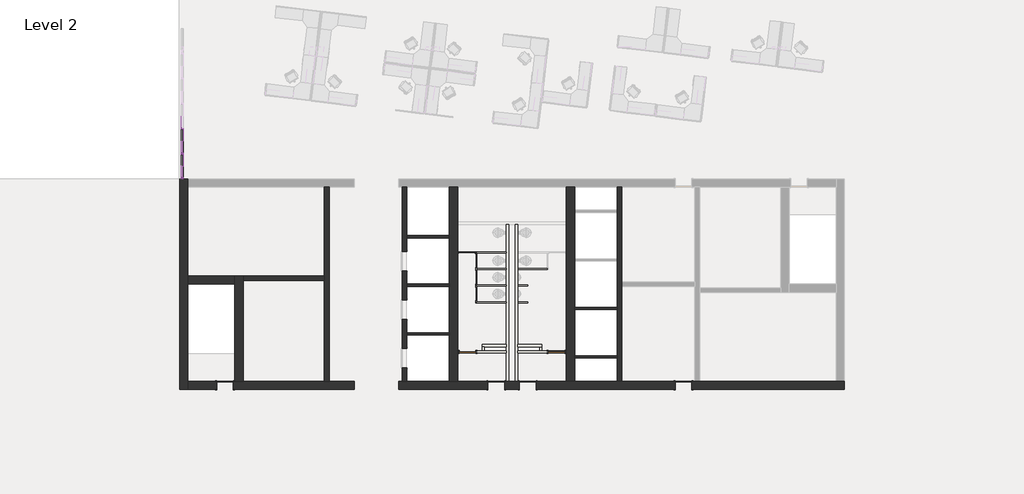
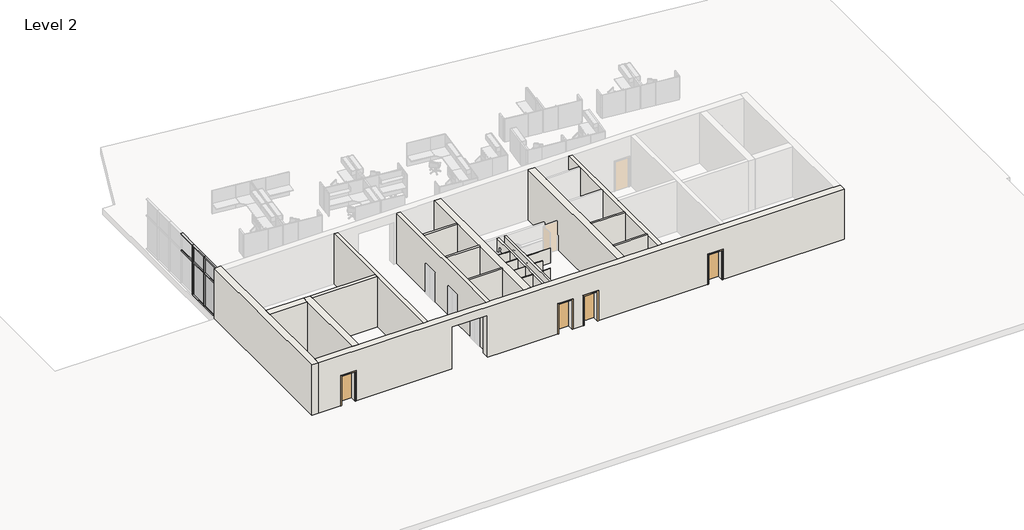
# One storey, part 1 of 7: 32 walls, 14 members, 10 doors, 4 plates.
"""IFC4 building model written with IfcOpenShell, lengths in millimetres."""

from ifc_helpers import new_model, si_unit, frame, origin, place, context, project, spatial, polyline, outline, extrude, faceted_brep, transform, mapped, element, save
from components import door_3c99239a, door_aec9db07, door_a3eb833a, door_a1797ceb, toilet_partitions_2_10_251e7a51, door_871a7840, member_9597caa3, member_b2bde9e6, member_c64c2408, member_866a01fa, member_13474e0d, member_fbf8c6f0, member_d7472725, system_panel_glazed_7f340023, system_panel_glazed_f79f5f4b, system_panel_glazed_02b69887, system_panel_glazed_e5c5d69c

model = new_model("IFC4")

# Units and contexts
model_context = context("Model", 3, world=origin())
ifc_project = project(units=[si_unit("LENGTHUNIT", "METRE", prefix="MILLI")], contexts=[model_context])

# Site, building, storey
site = spatial("IfcSite", under=ifc_project)
building = spatial("IfcBuilding", under=site)
storey = spatial("IfcBuildingStorey", under=building, Name="Level 2", Elevation=3657.6)

# Doors
placement = place(None, origin())
door_shape = door_3c99239a(model_context)
element("IfcDoor", 1, ObjectType="Single-Flush : 36\" x 84\"", at=placement, inside=storey, context=model_context, shape_type="MappedRepresentation", body=[
    mapped(door_shape, transform((-30700.0713641, -14594.8103492, 3657.6), x_axis=(1.0, 0.0, 0.0), y_axis=(0.0, 1.0, 0.0), z_axis=(0.0, 0.0, 1.0))),
])
element("IfcDoor", 2, ObjectType="Single-Flush : 36\" x 84\"", at=placement, inside=storey, context=model_context, shape_type="MappedRepresentation", body=[
    mapped(door_shape, transform((-5525.0427926, -14594.8103492, 3657.6), x_axis=(1.0, 0.0, 0.0), y_axis=(0.0, 1.0, 0.0), z_axis=(0.0, 0.0, 1.0))),
])
element("IfcDoor", 3, ObjectType="Single-Flush : 36\" x 84\"", at=placement, inside=storey, context=model_context, shape_type="MappedRepresentation", body=[
    mapped(door_shape, transform((-15804.7856498, -14594.8103492, 3657.6), x_axis=(1.0, 0.0, 0.0), y_axis=(0.0, 1.0, 0.0), z_axis=(0.0, 0.0, 1.0))),
])
door_2_shape = door_aec9db07(model_context)
element("IfcDoor", 4, ObjectType="Single-Flush : 36\" x 84\"", at=placement, inside=storey, context=model_context, shape_type="MappedRepresentation", body=[
    mapped(door_2_shape, transform((-14077.5856498, -14594.8103492, 3657.6), x_axis=(-1.0, 0.0, 0.0), y_axis=(0.0, -1.0, 0.0), z_axis=(0.0, 0.0, 1.0))),
])
door_3_shape = door_a3eb833a(model_context)
element("IfcDoor", 5, ObjectType="Single-Flush : 36\" x 84\"", at=placement, inside=storey, context=model_context, shape_type="MappedRepresentation", body=[
    mapped(door_3_shape, transform((-12487.8428559, -12753.3103492, 3657.6), x_axis=(1.0, 0.0, 0.0), y_axis=(0.0, 1.0, 0.0), z_axis=(0.0, 0.0, 1.0))),
])
door_4_shape = door_a1797ceb(model_context)
element("IfcDoor", 6, ObjectType="Single-Flush : 36\" x 84\"", at=placement, inside=storey, context=model_context, shape_type="MappedRepresentation", body=[
    mapped(door_4_shape, transform((-17394.5284437, -12753.3103492, 3657.6), x_axis=(-1.0, 0.0, 0.0), y_axis=(0.0, -1.0, 0.0), z_axis=(0.0, 0.0, 1.0))),
])
toilet_partitions_2_10_shape = toilet_partitions_2_10_251e7a51(model_context)
element("IfcDoor", 7, ObjectType="toilet Partitions : 2'10", at=placement, inside=storey, context=model_context, shape_type="MappedRepresentation", body=[
    mapped(toilet_partitions_2_10_shape, transform((-17432.6284437, -7282.7853492, 3657.6), x_axis=(-1.0, 0.0, 0.0), y_axis=(0.0, -1.0, 0.0), z_axis=(0.0, 0.0, 1.0))),
])
door_5_shape = door_871a7840(model_context)
element("IfcDoor", 8, ObjectType="toilet Partitions : 2'5\"", at=placement, inside=storey, context=model_context, shape_type="MappedRepresentation", body=[
    mapped(door_5_shape, transform((-16896.9856498, -9568.7853492, 3657.6), x_axis=(0.0, -1.0, 0.0), y_axis=(1.0, 0.0, 0.0), z_axis=(0.0, 0.0, 1.0))),
])
element("IfcDoor", 9, ObjectType="toilet Partitions : 2'5\"", at=placement, inside=storey, context=model_context, shape_type="MappedRepresentation", body=[
    mapped(door_5_shape, transform((-16896.9856498, -7739.9853492, 3657.6), x_axis=(0.0, -1.0, 0.0), y_axis=(1.0, 0.0, 0.0), z_axis=(0.0, 0.0, 1.0))),
])
element("IfcDoor", 10, ObjectType="toilet Partitions : 2'5\"", at=placement, inside=storey, context=model_context, shape_type="MappedRepresentation", body=[
    mapped(door_5_shape, transform((-16896.9856498, -8654.3853492, 3657.6), x_axis=(0.0, -1.0, 0.0), y_axis=(1.0, 0.0, 0.0), z_axis=(0.0, 0.0, 1.0))),
])

# Members
member_shape = member_9597caa3(model_context)
element("IfcMember", 11, ObjectType="Rectangular Mullion : 2.5\" x 5\" rectangular", at=placement, inside=storey, context=model_context, shape_type="MappedRepresentation", body=[
    mapped(member_shape, transform((-33055.0142212, -486.5214603, 3721.1), x_axis=(0.0, -1.0, 0.0), y_axis=(-1.0, 0.0, 0.0), z_axis=(0.0, 0.0, -1.0))),
])
element("IfcMember", 12, ObjectType="Rectangular Mullion : 2.5\" x 5\" rectangular", at=placement, inside=storey, context=model_context, shape_type="MappedRepresentation", body=[
    mapped(member_shape, transform((-33055.0142212, -1863.7659048, 3721.1), x_axis=(0.0, -1.0, 0.0), y_axis=(-1.0, 0.0, 0.0), z_axis=(0.0, 0.0, -1.0))),
])
member_2_shape = member_b2bde9e6(model_context)
element("IfcMember", 13, ObjectType="Rectangular Mullion : 2.5\" x 5\" rectangular", at=placement, inside=storey, context=model_context, shape_type="MappedRepresentation", body=[
    mapped(member_2_shape, transform((-33055.0142212, -3241.0103492, 3721.1), x_axis=(0.0, -1.0, 0.0), y_axis=(-1.0, 0.0, 0.0), z_axis=(0.0, 0.0, -1.0))),
])
member_3_shape = member_c64c2408(model_context)
element("IfcMember", 14, ObjectType="Rectangular Mullion : 2.5\" x 5\" rectangular", at=placement, inside=storey, context=model_context, shape_type="MappedRepresentation", body=[
    mapped(member_3_shape, transform((-33055.0142212, -3241.0103492, 7315.2), x_axis=(0.0, 0.0, 1.0), y_axis=(-1.0, 0.0, 0.0), z_axis=(0.0, -1.0, 0.0))),
])
element("IfcMember", 15, ObjectType="Rectangular Mullion : 2.5\" x 5\" rectangular", at=placement, inside=storey, context=model_context, shape_type="MappedRepresentation", body=[
    mapped(member_3_shape, transform((-33055.0142212, -486.5214603, 7315.2), x_axis=(0.0, 0.0, 1.0), y_axis=(-1.0, 0.0, 0.0), z_axis=(0.0, -1.0, 0.0))),
])
element("IfcMember", 16, ObjectType="Rectangular Mullion : 2.5\" x 5\" rectangular", at=placement, inside=storey, context=model_context, shape_type="MappedRepresentation", body=[
    mapped(member_3_shape, transform((-33055.0142212, -1863.7659048, 7315.2), x_axis=(0.0, 0.0, 1.0), y_axis=(-1.0, 0.0, 0.0), z_axis=(0.0, -1.0, 0.0))),
])
element("IfcMember", 17, ObjectType="Rectangular Mullion : 2.5\" x 5\" rectangular", at=placement, inside=storey, context=model_context, shape_type="MappedRepresentation", body=[
    mapped(member_3_shape, transform((-33055.0142212, -486.5214603, 3657.6), x_axis=(0.0, 0.0, -1.0), y_axis=(-1.0, 0.0, 0.0), z_axis=(0.0, 1.0, 0.0))),
])
element("IfcMember", 18, ObjectType="Rectangular Mullion : 2.5\" x 5\" rectangular", at=placement, inside=storey, context=model_context, shape_type="MappedRepresentation", body=[
    mapped(member_3_shape, transform((-33055.0142212, -1863.7659048, 3657.6), x_axis=(0.0, 0.0, -1.0), y_axis=(-1.0, 0.0, 0.0), z_axis=(0.0, 1.0, 0.0))),
])
member_4_shape = member_866a01fa(model_context)
element("IfcMember", 19, ObjectType="Rectangular Mullion : 2.5\" x 5\" rectangular", at=placement, inside=storey, context=model_context, shape_type="MappedRepresentation", body=[
    mapped(member_4_shape, transform((-33055.0142212, -486.5214603, 6127.75), x_axis=(0.0, -1.0, 0.0), y_axis=(-1.0, 0.0, 0.0), z_axis=(0.0, 0.0, -1.0))),
])
element("IfcMember", 20, ObjectType="Rectangular Mullion : 2.5\" x 5\" rectangular", at=placement, inside=storey, context=model_context, shape_type="MappedRepresentation", body=[
    mapped(member_4_shape, transform((-33055.0142212, -1863.7659048, 6127.75), x_axis=(0.0, -1.0, 0.0), y_axis=(-1.0, 0.0, 0.0), z_axis=(0.0, 0.0, -1.0))),
])
member_5_shape = member_13474e0d(model_context)
element("IfcMember", 21, ObjectType="Rectangular Mullion : 2.5\" x 5\" rectangular", at=placement, inside=storey, context=model_context, shape_type="MappedRepresentation", body=[
    mapped(member_5_shape, transform((-33055.0142212, -486.5214603, 6096.0), x_axis=(0.0, 0.0, 1.0), y_axis=(-1.0, 0.0, 0.0), z_axis=(0.0, -1.0, 0.0))),
])
element("IfcMember", 22, ObjectType="Rectangular Mullion : 2.5\" x 5\" rectangular", at=placement, inside=storey, context=model_context, shape_type="MappedRepresentation", body=[
    mapped(member_5_shape, transform((-33055.0142212, -1863.7659048, 6096.0), x_axis=(0.0, 0.0, 1.0), y_axis=(-1.0, 0.0, 0.0), z_axis=(0.0, -1.0, 0.0))),
])
member_6_shape = member_fbf8c6f0(model_context)
element("IfcMember", 23, ObjectType="Rectangular Mullion : 2.5\" x 5\" rectangular", at=placement, inside=storey, context=model_context, shape_type="MappedRepresentation", body=[
    mapped(member_6_shape, transform((-33055.0142212, -3177.5103492, 6096.0), x_axis=(0.0, 0.0, 1.0), y_axis=(-1.0, 0.0, 0.0), z_axis=(0.0, -1.0, 0.0))),
])
member_7_shape = member_d7472725(model_context)
element("IfcMember", 24, ObjectType="Rectangular Mullion : 2.5\" x 5\" rectangular", at=placement, inside=storey, context=model_context, shape_type="MappedRepresentation", body=[
    mapped(member_7_shape, transform((-33055.0142212, -3241.0103492, 6096.0), x_axis=(0.0, -1.0, 0.0), y_axis=(-1.0, 0.0, 0.0), z_axis=(0.0, 0.0, -1.0))),
])

# Plates
system_panel_glazed_shape = system_panel_glazed_7f340023(model_context)
element("IfcPlate", 25, ObjectType="System Panel : Glazed", at=placement, inside=storey, context=model_context, shape_type="MappedRepresentation", body=[
    mapped(system_panel_glazed_shape, transform((-33055.0142212, -2536.513127, 3721.1), x_axis=(0.0, -1.0, 0.0), y_axis=(1.0, 0.0, 0.0), z_axis=(0.0, 0.0, 1.0))),
])
system_panel_glazed_2_shape = system_panel_glazed_f79f5f4b(model_context)
element("IfcPlate", 26, ObjectType="System Panel : Glazed", at=placement, inside=storey, context=model_context, shape_type="MappedRepresentation", body=[
    mapped(system_panel_glazed_2_shape, transform((-33055.0142212, -1175.1436825, 3721.1), x_axis=(0.0, -1.0, 0.0), y_axis=(1.0, 0.0, 0.0), z_axis=(0.0, 0.0, 1.0))),
])
system_panel_glazed_3_shape = system_panel_glazed_02b69887(model_context)
element("IfcPlate", 27, ObjectType="System Panel : Glazed", at=placement, inside=storey, context=model_context, shape_type="MappedRepresentation", body=[
    mapped(system_panel_glazed_3_shape, transform((-33055.0142212, -2536.513127, 6127.75), x_axis=(0.0, -1.0, 0.0), y_axis=(1.0, 0.0, 0.0), z_axis=(0.0, 0.0, 1.0))),
])
system_panel_glazed_4_shape = system_panel_glazed_e5c5d69c(model_context)
element("IfcPlate", 28, ObjectType="System Panel : Glazed", at=placement, inside=storey, context=model_context, shape_type="MappedRepresentation", body=[
    mapped(system_panel_glazed_4_shape, transform((-33055.0142212, -1175.1436825, 6127.75), x_axis=(0.0, -1.0, 0.0), y_axis=(1.0, 0.0, 0.0), z_axis=(0.0, 0.0, 1.0))),
])

# Walls
element("IfcWall", 29, ObjectType="Core-shaft 10\" Concrete", at=placement, inside=storey, context=model_context, shape_type="SweptSolid", body=[
    extrude(outline(polyline([(-14366.2103492, 7315.2), (-3698.2103492, 7315.2), (-3698.2103492, 3657.6), (-7222.4603492, 3657.6), (-7222.4603492, 5816.6), (-8301.9603492, 5816.6), (-8301.9603492, 3657.6), (-9889.4603492, 3657.6), (-9889.4603492, 5816.6), (-10968.9603492, 5816.6), (-10968.9603492, 3657.6), (-12556.4603492, 3657.6), (-12556.4603492, 5816.6), (-13635.9603492, 5816.6), (-13635.9603492, 3657.6), (-14366.2103492, 3657.6), (-14366.2103492, 7315.2)])), frame((-20979.1285069, 0.0, 0.0), z_axis=(1.0, 0.0, 0.0), x_axis=(0.0, 1.0, 0.0)), (0.0, 0.0, 1.0), 254.0),
])
element("IfcWall", 30, ObjectType="Core-shaft 10\" Concrete", at=placement, inside=storey, context=model_context, shape_type="Brep", body=[
    faceted_brep([(-24992.3285069, -14366.2103492, 3657.6), (-24992.3285069, -3698.2103492, 3657.6), (-24992.3285069, -3698.2103492, 7315.2), (-24992.3285069, -14366.2103492, 7315.2), (-25246.3285069, -14366.2103492, 3657.6), (-25246.3285069, -14366.2103492, 7315.2), (-25246.3285069, -8829.0103492, 7315.2), (-25246.3285069, -8575.0103492, 7315.2), (-25246.3285069, -3698.2103492, 7315.2), (-25246.3285069, -3698.2103492, 3657.6), (-25246.3285069, -8575.0103492, 3657.6), (-25246.3285069, -8829.0103492, 3657.6)], [[[0, 1, 2, 3]], [[4, 5, 6, 7, 8, 9, 10, 11]], [[1, 0, 4, 11, 10, 9]], [[3, 2, 8, 7, 6, 5]], [[0, 3, 5, 4]], [[2, 1, 9, 8]]]),
])
element("IfcWall", 31, ObjectType="Core-shaft 10\" Concrete", at=placement, inside=storey, context=model_context, shape_type="SweptSolid", body=[
    extrude(outline(polyline([(-25246.3285069, -8829.0103492), (-29709.4713641, -8829.0103492), (-29709.4713641, -8575.0103492), (-25246.3285069, -8575.0103492), (-25246.3285069, -8829.0103492)])), frame((0.0, 0.0, 3657.6), z_axis=(0.0, 0.0, 1.0), x_axis=(1.0, 0.0, 0.0)), (0.0, 0.0, 1.0), 3657.6),
])
element("IfcWall", 32, ObjectType="Core-shaft 10\" Concrete", at=placement, inside=storey, context=model_context, shape_type="SweptSolid", body=[
    extrude(outline(polyline([(-8903.2427926, -3698.2103492), (-8903.2427926, -14366.2103492), (-9157.2427926, -14366.2103492), (-9157.2427926, -3698.2103492), (-8903.2427926, -3698.2103492)])), frame((0.0, 0.0, 3657.6), z_axis=(0.0, 0.0, 1.0), x_axis=(1.0, 0.0, 0.0)), (0.0, 0.0, 1.0), 3657.6),
])
element("IfcWall", 33, ObjectType="Core-shaft 18\" Concrete", at=placement, inside=storey, context=model_context, shape_type="Brep", body=[
    faceted_brep([(-14534.7856498, -14366.2103492, 5791.2), (-14534.7856498, -14366.2103492, 3657.6), (-15347.5856498, -14366.2103492, 3657.6), (-15347.5856498, -14366.2103492, 5791.2), (-16261.9856498, -14366.2103492, 5791.2), (-16261.9856498, -14366.2103492, 3657.6), (-17927.9284437, -14366.2103492, 3657.6), (-18385.1284437, -14366.2103492, 3657.6), (-20725.1285069, -14366.2103492, 3657.6), (-20979.1285069, -14366.2103492, 3657.6), (-21167.8142212, -14366.2103492, 3657.6), (-21167.8142212, -14366.2103492, 6705.6), (-23606.2142212, -14366.2103492, 6705.6), (-23606.2142212, -14366.2103492, 3657.6), (-24992.3285069, -14366.2103492, 3657.6), (-25246.3285069, -14366.2103492, 3657.6), (-29709.4713641, -14366.2103492, 3657.6), (-30166.6713641, -14366.2103492, 3657.6), (-30242.8713641, -14366.2103492, 3657.6), (-30242.8713641, -14366.2103492, 5791.2), (-31157.2713641, -14366.2103492, 5791.2), (-31157.2713641, -14366.2103492, 3657.6), (-32750.2142212, -14366.2103492, 3657.6), (-32750.2142212, -14366.2103492, 7315.2), (-30166.6713641, -14366.2103492, 7315.2), (-29709.4713641, -14366.2103492, 7315.2), (-25246.3285069, -14366.2103492, 7315.2), (-24992.3285069, -14366.2103492, 7315.2), (-20979.1285069, -14366.2103492, 7315.2), (-20725.1285069, -14366.2103492, 7315.2), (-18385.1284437, -14366.2103492, 7315.2), (-17927.9284437, -14366.2103492, 7315.2), (-11954.4428559, -14366.2103492, 7315.2), (-11497.2428559, -14366.2103492, 7315.2), (-9157.2427926, -14366.2103492, 7315.2), (-8903.2427926, -14366.2103492, 7315.2), (-4890.0427926, -14366.2103492, 7315.2), (-4636.0427926, -14366.2103492, 7315.2), (2867.8429217, -14366.2103492, 7315.2), (3325.0429217, -14366.2103492, 7315.2), (3325.0429217, -14366.2103492, 3657.6), (2867.8429217, -14366.2103492, 3657.6), (-4636.0427926, -14366.2103492, 3657.6), (-4890.0427926, -14366.2103492, 3657.6), (-5067.8427926, -14366.2103492, 3657.6), (-5067.8427926, -14366.2103492, 5791.2), (-5982.2427926, -14366.2103492, 5791.2), (-5982.2427926, -14366.2103492, 3657.6), (-8903.2427926, -14366.2103492, 3657.6), (-9157.2427926, -14366.2103492, 3657.6), (-11497.2428559, -14366.2103492, 3657.6), (-11954.4428559, -14366.2103492, 3657.6), (-13620.3856498, -14366.2103492, 3657.6), (-13620.3856498, -14366.2103492, 5791.2), (-15347.5856498, -14823.4103492, 3657.6), (-14534.7856498, -14823.4103492, 3657.6), (-14534.7856498, -14823.4103492, 5791.2), (-13620.3856498, -14823.4103492, 5791.2), (-13620.3856498, -14823.4103492, 3657.6), (-5982.2427926, -14823.4103492, 3657.6), (-5982.2427926, -14823.4103492, 5791.2), (-5067.8427926, -14823.4103492, 5791.2), (-5067.8427926, -14823.4103492, 3657.6), (3325.0429217, -14823.4103492, 3657.6), (3325.0429217, -14823.4103492, 7315.2), (-32750.2142212, -14823.4103492, 7315.2), (-32750.2142212, -14823.4103492, 3657.6), (-31157.2713641, -14823.4103492, 3657.6), (-31157.2713641, -14823.4103492, 5791.2), (-30242.8713641, -14823.4103492, 5791.2), (-30242.8713641, -14823.4103492, 3657.6), (-23606.2142212, -14823.4103492, 3657.6), (-23606.2142212, -14823.4103492, 6705.6), (-21167.8142212, -14823.4103492, 6705.6), (-21167.8142212, -14823.4103492, 3657.6), (-16261.9856498, -14823.4103492, 3657.6), (-16261.9856498, -14823.4103492, 5791.2), (-15347.5856498, -14823.4103492, 5791.2)], [[[0, 1, 2, 3, 4, 5, 6, 7, 8, 9, 10, 11, 12, 13, 14, 15, 16, 17, 18, 19, 20, 21, 22, 23, 24, 25, 26, 27, 28, 29, 30, 31, 32, 33, 34, 35, 36, 37, 38, 39, 40, 41, 42, 43, 44, 45, 46, 47, 48, 49, 50, 51, 52, 53]], [[54, 55, 56, 57, 58, 59, 60, 61, 62, 63, 64, 65, 66, 67, 68, 69, 70, 71, 72, 73, 74, 75, 76, 77]], [[67, 66, 22, 21]], [[71, 70, 18, 17, 16, 15, 14, 13]], [[63, 62, 44, 43, 42, 41, 40]], [[75, 74, 10, 9, 8, 7, 6, 5]], [[2, 1, 55, 54]], [[52, 51, 50, 49, 48, 47, 59, 58]], [[39, 38, 37, 36, 35, 34, 33, 32, 31, 30, 29, 28, 27, 26, 25, 24, 23, 65, 64]], [[11, 73, 72, 12]], [[73, 11, 10, 74]], [[12, 72, 71, 13]], [[19, 18, 70, 69]], [[20, 19, 69, 68]], [[21, 20, 68, 67]], [[45, 44, 62, 61]], [[46, 45, 61, 60]], [[47, 46, 60, 59]], [[40, 39, 64, 63]], [[23, 22, 66, 65]], [[3, 2, 54, 77]], [[4, 3, 77, 76]], [[5, 4, 76, 75]], [[56, 55, 1, 0]], [[57, 56, 0, 53]], [[58, 57, 53, 52]]]),
])
element("IfcWall", 34, ObjectType="Core-shaft 18\" Concrete", at=placement, inside=storey, context=model_context, shape_type="Brep", body=[
    faceted_brep([(-32750.2142212, -14823.4103492, 3657.6), (-32750.2142212, -14366.2103492, 3657.6), (-32750.2142212, -9032.2103492, 3657.6), (-32750.2142212, -8575.0103492, 3657.6), (-32750.2142212, -3698.2103492, 3657.6), (-32750.2142212, -3241.0103492, 3657.6), (-32750.2142212, -3241.0103492, 7315.2), (-32750.2142212, -3698.2103492, 7315.2), (-32750.2142212, -8575.0103492, 7315.2), (-32750.2142212, -9032.2103492, 7315.2), (-32750.2142212, -14366.2103492, 7315.2), (-32750.2142212, -14823.4103492, 7315.2), (-33207.4142212, -14823.4103492, 3657.6), (-33207.4142212, -14823.4103492, 7315.2), (-33207.4142212, -3241.0103492, 7315.2), (-33207.4142212, -3241.0103492, 3657.6)], [[[0, 1, 2, 3, 4, 5, 6, 7, 8, 9, 10, 11]], [[12, 13, 14, 15]], [[5, 4, 3, 2, 1, 0, 12, 15]], [[11, 10, 9, 8, 7, 6, 14, 13]], [[0, 11, 13, 12]], [[6, 5, 15, 14]]]),
])
element("IfcWall", 35, ObjectType="Core-shaft 18\" Concrete", at=placement, inside=storey, context=model_context, shape_type="SweptSolid", body=[
    extrude(outline(polyline([(-18385.1284437, -14366.2103492), (-18385.1284437, -3698.2103492), (-17927.9284437, -3698.2103492), (-17927.9284437, -14366.2103492), (-18385.1284437, -14366.2103492)])), frame((0.0, 0.0, 3657.6), z_axis=(0.0, 0.0, 1.0), x_axis=(1.0, 0.0, 0.0)), (0.0, 0.0, 1.0), 3657.6),
])
element("IfcWall", 36, ObjectType="Core-shaft 18\" Concrete", at=placement, inside=storey, context=model_context, shape_type="Brep", body=[
    faceted_brep([(-29709.4713641, -14366.2103492, 3657.6), (-29709.4713641, -8829.0103492, 3657.6), (-29709.4713641, -8575.0103492, 3657.6), (-29709.4713641, -8575.0103492, 7315.2), (-29709.4713641, -8829.0103492, 7315.2), (-29709.4713641, -14366.2103492, 7315.2), (-30166.6713641, -14366.2103492, 3657.6), (-30166.6713641, -14366.2103492, 7315.2), (-30166.6713641, -9032.2103492, 7315.2), (-30166.6713641, -8575.0103492, 7315.2), (-30166.6713641, -8575.0103492, 3657.6), (-30166.6713641, -9032.2103492, 3657.6)], [[[0, 1, 2, 3, 4, 5]], [[6, 7, 8, 9, 10, 11]], [[2, 1, 0, 6, 11, 10]], [[5, 4, 3, 9, 8, 7]], [[3, 2, 10, 9]], [[0, 5, 7, 6]]]),
])
element("IfcWall", 37, ObjectType="Core-shaft 18\" Concrete", at=placement, inside=storey, context=model_context, shape_type="SweptSolid", body=[
    extrude(outline(polyline([(-32750.2142212, -8575.0103492), (-30166.6713641, -8575.0103492), (-30166.6713641, -9032.2103492), (-32750.2142212, -9032.2103492), (-32750.2142212, -8575.0103492)])), frame((0.0, 0.0, 3657.6), z_axis=(0.0, 0.0, 1.0), x_axis=(1.0, 0.0, 0.0)), (0.0, 0.0, 1.0), 3657.6),
])
element("IfcWall", 38, ObjectType="Core-shaft 18\" Concrete", at=placement, inside=storey, context=model_context, shape_type="SweptSolid", body=[
    extrude(outline(polyline([(-11954.4428559, -14366.2103492), (-11954.4428559, -3698.2103492), (-11497.2428559, -3698.2103492), (-11497.2428559, -14366.2103492), (-11954.4428559, -14366.2103492)])), frame((0.0, 0.0, 3657.6), z_axis=(0.0, 0.0, 1.0), x_axis=(1.0, 0.0, 0.0)), (0.0, 0.0, 1.0), 3657.6),
])
element("IfcWall", 39, ObjectType="Generic - 5\"", at=placement, inside=storey, context=model_context, shape_type="SweptSolid", body=[
    extrude(outline(polyline([(-18385.1284437, -11826.2103492), (-20725.1285069, -11826.2103492), (-20725.1285069, -11699.2103492), (-18385.1284437, -11699.2103492), (-18385.1284437, -11826.2103492)])), frame((0.0, 0.0, 3657.6), z_axis=(0.0, 0.0, 1.0), x_axis=(1.0, 0.0, 0.0)), (0.0, 0.0, 1.0), 3657.6),
])
element("IfcWall", 40, ObjectType="Generic - 5\"", at=placement, inside=storey, context=model_context, shape_type="SweptSolid", body=[
    extrude(outline(polyline([(-18385.1284437, -9159.2103492), (-20725.1285069, -9159.2103492), (-20725.1285069, -9032.2103492), (-18385.1284437, -9032.2103492), (-18385.1284437, -9159.2103492)])), frame((0.0, 0.0, 3657.6), z_axis=(0.0, 0.0, 1.0), x_axis=(1.0, 0.0, 0.0)), (0.0, 0.0, 1.0), 3657.6),
])
element("IfcWall", 41, ObjectType="Generic - 5\"", at=placement, inside=storey, context=model_context, shape_type="SweptSolid", body=[
    extrude(outline(polyline([(-18385.1284437, -6492.2103492), (-20725.1285069, -6492.2103492), (-20725.1285069, -6365.2103492), (-18385.1284437, -6365.2103492), (-18385.1284437, -6492.2103492)])), frame((0.0, 0.0, 3657.6), z_axis=(0.0, 0.0, 1.0), x_axis=(1.0, 0.0, 0.0)), (0.0, 0.0, 1.0), 3657.6),
])
element("IfcWall", 42, ObjectType="Generic - 5\"", at=placement, inside=storey, context=model_context, shape_type="SweptSolid", body=[
    extrude(outline(polyline([(-11497.2428559, -10302.2103492), (-9157.2427926, -10302.2103492), (-9157.2427926, -10429.2103492), (-11497.2428559, -10429.2103492), (-11497.2428559, -10302.2103492)])), frame((0.0, 0.0, 3657.6), z_axis=(0.0, 0.0, 1.0), x_axis=(1.0, 0.0, 0.0)), (0.0, 0.0, 1.0), 3657.6),
])
element("IfcWall", 43, ObjectType="Generic - 5\"", at=placement, inside=storey, context=model_context, shape_type="SweptSolid", body=[
    extrude(outline(polyline([(-11497.2428559, -12969.2103492), (-9157.2427926, -12969.2103492), (-9157.2427926, -13096.2103492), (-11497.2428559, -13096.2103492), (-11497.2428559, -12969.2103492)])), frame((0.0, 0.0, 3657.6), z_axis=(0.0, 0.0, 1.0), x_axis=(1.0, 0.0, 0.0)), (0.0, 0.0, 1.0), 3657.6),
])
element("IfcWall", 44, ObjectType="Interior - Generic - 5\"", at=placement, inside=storey, context=model_context, shape_type="Brep", body=[
    faceted_brep([(-15131.6856498, -14366.2103492, 3657.6), (-15131.6856498, -5742.9103492, 3657.6), (-15131.6856498, -5742.9103492, 4724.4), (-15131.6856498, -14366.2103492, 4724.4), (-15258.6856498, -14366.2103492, 3657.6), (-15258.6856498, -14366.2103492, 4724.4), (-15258.6856498, -12816.8103492, 4724.4), (-15258.6856498, -12689.8103492, 4724.4), (-15258.6856498, -12480.2603492, 4724.4), (-15258.6856498, -12353.2603492, 4724.4), (-15258.6856498, -10051.3853492, 4724.4), (-15258.6856498, -10000.5853492, 4724.4), (-15258.6856498, -9136.9853492, 4724.4), (-15258.6856498, -9086.1853492, 4724.4), (-15258.6856498, -8222.5853492, 4724.4), (-15258.6856498, -8171.7853492, 4724.4), (-15258.6856498, -7308.1853492, 4724.4), (-15258.6856498, -7257.3853492, 4724.4), (-15258.6856498, -5742.9103492, 4724.4), (-15258.6856498, -5742.9103492, 3657.6), (-15258.6856498, -7257.3853492, 3657.6), (-15258.6856498, -7308.1853492, 3657.6), (-15258.6856498, -8171.7853492, 3657.6), (-15258.6856498, -8222.5853492, 3657.6), (-15258.6856498, -9086.1853492, 3657.6), (-15258.6856498, -9136.9853492, 3657.6), (-15258.6856498, -10000.5853492, 3657.6), (-15258.6856498, -10051.3853492, 3657.6), (-15258.6856498, -12353.2603492, 3657.6), (-15258.6856498, -12480.2603492, 3657.6), (-15258.6856498, -12689.8103492, 3657.6), (-15258.6856498, -12816.8103492, 3657.6)], [[[0, 1, 2, 3]], [[4, 5, 6, 7, 8, 9, 10, 11, 12, 13, 14, 15, 16, 17, 18, 19, 20, 21, 22, 23, 24, 25, 26, 27, 28, 29, 30, 31]], [[1, 0, 4, 31, 30, 29, 28, 27, 26, 25, 24, 23, 22, 21, 20, 19]], [[3, 2, 18, 17, 16, 15, 14, 13, 12, 11, 10, 9, 8, 7, 6, 5]], [[0, 3, 5, 4]], [[2, 1, 19, 18]]]),
])
element("IfcWall", 45, ObjectType="Interior - Generic - 5\"", at=placement, inside=storey, context=model_context, shape_type="Brep", body=[
    faceted_brep([(-14623.6856498, -14366.2103492, 3657.6), (-14623.6856498, -12816.8103492, 3657.6), (-14623.6856498, -12689.8103492, 3657.6), (-14623.6856498, -12480.2603492, 3657.6), (-14623.6856498, -12353.2603492, 3657.6), (-14623.6856498, -10051.3853492, 3657.6), (-14623.6856498, -10000.5853492, 3657.6), (-14623.6856498, -9136.9853492, 3657.6), (-14623.6856498, -9086.1853492, 3657.6), (-14623.6856498, -8222.5853492, 3657.6), (-14623.6856498, -8171.7853492, 3657.6), (-14623.6856498, -7308.1853492, 3657.6), (-14623.6856498, -7257.3853492, 3657.6), (-14623.6856498, -5742.9103492, 3657.6), (-14623.6856498, -5742.9103492, 4724.4), (-14623.6856498, -7257.3853492, 4724.4), (-14623.6856498, -7308.1853492, 4724.4), (-14623.6856498, -8171.7853492, 4724.4), (-14623.6856498, -8222.5853492, 4724.4), (-14623.6856498, -9086.1853492, 4724.4), (-14623.6856498, -9136.9853492, 4724.4), (-14623.6856498, -10000.5853492, 4724.4), (-14623.6856498, -10051.3853492, 4724.4), (-14623.6856498, -12353.2603492, 4724.4), (-14623.6856498, -12480.2603492, 4724.4), (-14623.6856498, -12689.8103492, 4724.4), (-14623.6856498, -12816.8103492, 4724.4), (-14623.6856498, -14366.2103492, 4724.4), (-14750.6856498, -14366.2103492, 3657.6), (-14750.6856498, -14366.2103492, 4724.4), (-14750.6856498, -5742.9103492, 4724.4), (-14750.6856498, -5742.9103492, 3657.6)], [[[0, 1, 2, 3, 4, 5, 6, 7, 8, 9, 10, 11, 12, 13, 14, 15, 16, 17, 18, 19, 20, 21, 22, 23, 24, 25, 26, 27]], [[28, 29, 30, 31]], [[13, 12, 11, 10, 9, 8, 7, 6, 5, 4, 3, 2, 1, 0, 28, 31]], [[27, 26, 25, 24, 23, 22, 21, 20, 19, 18, 17, 16, 15, 14, 30, 29]], [[0, 27, 29, 28]], [[14, 13, 31, 30]]]),
])
element("IfcWall", 46, ObjectType="Interior - Generic - 5\"", at=placement, inside=storey, context=model_context, shape_type="Brep", body=[
    faceted_brep([(-14623.6856498, -12816.8103492, 3657.6), (-11954.4428559, -12816.8103492, 3657.6), (-11954.4428559, -12816.8103492, 4724.4), (-14623.6856498, -12816.8103492, 4724.4), (-14623.6856498, -12689.8103492, 3657.6), (-14623.6856498, -12689.8103492, 4724.4), (-13429.8856498, -12689.8103492, 4724.4), (-13302.8856498, -12689.8103492, 4724.4), (-11954.4428559, -12689.8103492, 4724.4), (-11954.4428559, -12689.8103492, 3657.6), (-13302.8856498, -12689.8103492, 3657.6), (-13429.8856498, -12689.8103492, 3657.6)], [[[0, 1, 2, 3]], [[4, 5, 6, 7, 8, 9, 10, 11]], [[1, 0, 4, 11, 10, 9]], [[3, 2, 8, 7, 6, 5]], [[0, 3, 5, 4]], [[2, 1, 9, 8]]]),
])
element("IfcWall", 47, ObjectType="Interior - Generic - 5\"", at=placement, inside=storey, context=model_context, shape_type="Brep", body=[
    faceted_brep([(-17927.9284437, -12689.8103492, 3657.6), (-17927.9284437, -12689.8103492, 4724.4), (-17851.7284437, -12689.8103492, 4724.4), (-17851.7284437, -12689.8103492, 3657.6), (-17927.9284437, -12816.8103492, 4724.4), (-17927.9284437, -12816.8103492, 3657.6), (-17851.7284437, -12816.8103492, 3657.6), (-17851.7284437, -12816.8103492, 4724.4)], [[[0, 1, 2, 3]], [[4, 5, 6, 7]], [[5, 0, 3, 6]], [[1, 4, 7, 2]], [[3, 2, 7, 6]], [[1, 0, 5, 4]]]),
    faceted_brep([(-15258.6856498, -12689.8103492, 4724.4), (-15258.6856498, -12689.8103492, 3657.6), (-16452.4856498, -12689.8103492, 3657.6), (-16579.4856498, -12689.8103492, 3657.6), (-16937.3284437, -12689.8103492, 3657.6), (-16937.3284437, -12689.8103492, 4724.4), (-16579.4856498, -12689.8103492, 4724.4), (-16452.4856498, -12689.8103492, 4724.4), (-15258.6856498, -12816.8103492, 3657.6), (-15258.6856498, -12816.8103492, 4724.4), (-16937.3284437, -12816.8103492, 4724.4), (-16937.3284437, -12816.8103492, 3657.6)], [[[0, 1, 2, 3, 4, 5, 6, 7]], [[8, 9, 10, 11]], [[1, 8, 11, 4, 3, 2]], [[9, 0, 7, 6, 5, 10]], [[5, 4, 11, 10]], [[1, 0, 9, 8]]]),
])
element("IfcWall", 48, ObjectType="Interior - Generic - 5\"", at=placement, inside=storey, context=model_context, shape_type="Brep", body=[
    faceted_brep([(-15258.6856498, -12353.2603492, 3657.6), (-16579.4856498, -12353.2603492, 3657.6), (-16579.4856498, -12353.2603492, 4724.4), (-15258.6856498, -12353.2603492, 4724.4), (-15258.6856498, -12480.2603492, 3657.6), (-15258.6856498, -12480.2603492, 4724.4), (-16452.4856498, -12480.2603492, 4724.4), (-16579.4856498, -12480.2603492, 4724.4), (-16579.4856498, -12480.2603492, 3657.6), (-16452.4856498, -12480.2603492, 3657.6)], [[[0, 1, 2, 3]], [[4, 5, 6, 7, 8, 9]], [[1, 0, 4, 9, 8]], [[3, 2, 7, 6, 5]], [[2, 1, 8, 7]], [[0, 3, 5, 4]]]),
])
element("IfcWall", 49, ObjectType="Interior - Generic - 5\"", at=placement, inside=storey, context=model_context, shape_type="SweptSolid", body=[
    extrude(outline(polyline([(-16579.4856498, -12689.8103492), (-16579.4856498, -12480.2603492), (-16452.4856498, -12480.2603492), (-16452.4856498, -12689.8103492), (-16579.4856498, -12689.8103492)])), frame((0.0, 0.0, 3657.6), z_axis=(0.0, 0.0, 1.0), x_axis=(1.0, 0.0, 0.0)), (0.0, 0.0, 1.0), 1066.8),
])
element("IfcWall", 50, ObjectType="Interior - Generic - 5\"", at=placement, inside=storey, context=model_context, shape_type="Brep", body=[
    faceted_brep([(-11954.4428559, -12816.8103492, 3657.6), (-11954.4428559, -12816.8103492, 4724.4), (-12030.6428559, -12816.8103492, 4724.4), (-12030.6428559, -12816.8103492, 3657.6), (-11954.4428559, -12689.8103492, 4724.4), (-11954.4428559, -12689.8103492, 3657.6), (-12030.6428559, -12689.8103492, 3657.6), (-12030.6428559, -12689.8103492, 4724.4)], [[[0, 1, 2, 3]], [[4, 5, 6, 7]], [[5, 0, 3, 6]], [[1, 4, 7, 2]], [[3, 2, 7, 6]], [[1, 0, 5, 4]]]),
    faceted_brep([(-14623.6856498, -12816.8103492, 4724.4), (-14623.6856498, -12816.8103492, 3657.6), (-12945.0428559, -12816.8103492, 3657.6), (-12945.0428559, -12816.8103492, 4724.4), (-14623.6856498, -12689.8103492, 3657.6), (-14623.6856498, -12689.8103492, 4724.4), (-13429.8856498, -12689.8103492, 4724.4), (-13302.8856498, -12689.8103492, 4724.4), (-12945.0428559, -12689.8103492, 4724.4), (-12945.0428559, -12689.8103492, 3657.6), (-13302.8856498, -12689.8103492, 3657.6), (-13429.8856498, -12689.8103492, 3657.6)], [[[0, 1, 2, 3]], [[4, 5, 6, 7, 8, 9, 10, 11]], [[1, 4, 11, 10, 9, 2]], [[5, 0, 3, 8, 7, 6]], [[3, 2, 9, 8]], [[1, 0, 5, 4]]]),
])
element("IfcWall", 51, ObjectType="Interior - Generic - 5\"", at=placement, inside=storey, context=model_context, shape_type="Brep", body=[
    faceted_brep([(-14623.6856498, -12480.2603492, 3657.6), (-13429.8856498, -12480.2603492, 3657.6), (-13302.8856498, -12480.2603492, 3657.6), (-13302.8856498, -12480.2603492, 4724.4), (-13429.8856498, -12480.2603492, 4724.4), (-14623.6856498, -12480.2603492, 4724.4), (-14623.6856498, -12353.2603492, 3657.6), (-14623.6856498, -12353.2603492, 4724.4), (-13302.8856498, -12353.2603492, 4724.4), (-13302.8856498, -12353.2603492, 3657.6)], [[[0, 1, 2, 3, 4, 5]], [[6, 7, 8, 9]], [[2, 1, 0, 6, 9]], [[5, 4, 3, 8, 7]], [[3, 2, 9, 8]], [[0, 5, 7, 6]]]),
])
element("IfcWall", 52, ObjectType="Interior - Generic - 5\"", at=placement, inside=storey, context=model_context, shape_type="SweptSolid", body=[
    extrude(outline(polyline([(-13429.8856498, -12689.8103492), (-13429.8856498, -12480.2603492), (-13302.8856498, -12480.2603492), (-13302.8856498, -12689.8103492), (-13429.8856498, -12689.8103492)])), frame((0.0, 0.0, 3657.6), z_axis=(0.0, 0.0, 1.0), x_axis=(1.0, 0.0, 0.0)), (0.0, 0.0, 1.0), 1066.8),
])
element("IfcWall", 53, ObjectType="Toilet Partition", at=placement, inside=storey, context=model_context, shape_type="Brep", body=[
    faceted_brep([(-16871.5856498, -7308.1853492, 3657.6), (-16871.5856498, -7308.1853492, 4724.4), (-16871.5856498, -7371.6853492, 4724.4), (-16871.5856498, -7371.6853492, 3657.6), (-16922.3856498, -7308.1853492, 4724.4), (-16922.3856498, -7308.1853492, 3657.6), (-16922.3856498, -7371.6853492, 3657.6), (-16922.3856498, -7371.6853492, 4724.4)], [[[0, 1, 2, 3]], [[4, 5, 6, 7]], [[5, 0, 3, 6]], [[1, 4, 7, 2]], [[1, 0, 5, 4]], [[3, 2, 7, 6]]]),
    faceted_brep([(-16871.5856498, -9937.0853492, 3657.6), (-16871.5856498, -9937.0853492, 4724.4), (-16871.5856498, -10000.5853492, 4724.4), (-16871.5856498, -10051.3853492, 4724.4), (-16871.5856498, -10051.3853492, 3657.6), (-16871.5856498, -10000.5853492, 3657.6), (-16922.3856498, -9937.0853492, 4724.4), (-16922.3856498, -9937.0853492, 3657.6), (-16922.3856498, -10051.3853492, 3657.6), (-16922.3856498, -10051.3853492, 4724.4)], [[[0, 1, 2, 3, 4, 5]], [[6, 7, 8, 9]], [[7, 0, 5, 4, 8]], [[1, 6, 9, 3, 2]], [[1, 0, 7, 6]], [[4, 3, 9, 8]]]),
    faceted_brep([(-16871.5856498, -9200.4853492, 4724.4), (-16871.5856498, -9200.4853492, 3657.6), (-16871.5856498, -9136.9853492, 3657.6), (-16871.5856498, -9086.1853492, 3657.6), (-16871.5856498, -9022.6853492, 3657.6), (-16871.5856498, -9022.6853492, 4724.4), (-16871.5856498, -9086.1853492, 4724.4), (-16871.5856498, -9136.9853492, 4724.4), (-16922.3856498, -9200.4853492, 3657.6), (-16922.3856498, -9200.4853492, 4724.4), (-16922.3856498, -9022.6853492, 4724.4), (-16922.3856498, -9022.6853492, 3657.6)], [[[0, 1, 2, 3, 4, 5, 6, 7]], [[8, 9, 10, 11]], [[1, 8, 11, 4, 3, 2]], [[9, 0, 7, 6, 5, 10]], [[1, 0, 9, 8]], [[5, 4, 11, 10]]]),
    faceted_brep([(-16871.5856498, -8108.2853492, 3657.6), (-16871.5856498, -8108.2853492, 4724.4), (-16871.5856498, -8171.7853492, 4724.4), (-16871.5856498, -8222.5853492, 4724.4), (-16871.5856498, -8286.0853492, 4724.4), (-16871.5856498, -8286.0853492, 3657.6), (-16871.5856498, -8222.5853492, 3657.6), (-16871.5856498, -8171.7853492, 3657.6), (-16922.3856498, -8108.2853492, 4724.4), (-16922.3856498, -8108.2853492, 3657.6), (-16922.3856498, -8286.0853492, 3657.6), (-16922.3856498, -8286.0853492, 4724.4)], [[[0, 1, 2, 3, 4, 5, 6, 7]], [[8, 9, 10, 11]], [[9, 0, 7, 6, 5, 10]], [[1, 8, 11, 4, 3, 2]], [[1, 0, 9, 8]], [[5, 4, 11, 10]]]),
])
element("IfcWall", 54, ObjectType="Toilet Partition", at=placement, inside=storey, context=model_context, shape_type="Brep", body=[
    faceted_brep([(-17927.9284437, -7257.3853492, 3657.6), (-17927.9284437, -7257.3853492, 4724.4), (-17864.4284437, -7257.3853492, 4724.4), (-17864.4284437, -7257.3853492, 3657.6), (-17927.9284437, -7308.1853492, 4724.4), (-17927.9284437, -7308.1853492, 3657.6), (-17864.4284437, -7308.1853492, 3657.6), (-17864.4284437, -7308.1853492, 4724.4)], [[[0, 1, 2, 3]], [[4, 5, 6, 7]], [[5, 0, 3, 6]], [[1, 4, 7, 2]], [[3, 2, 7, 6]], [[1, 0, 5, 4]]]),
    faceted_brep([(-15258.6856498, -7257.3853492, 4724.4), (-15258.6856498, -7257.3853492, 3657.6), (-17000.8284437, -7257.3853492, 3657.6), (-17000.8284437, -7257.3853492, 4724.4), (-15258.6856498, -7308.1853492, 3657.6), (-15258.6856498, -7308.1853492, 4724.4), (-16871.5856498, -7308.1853492, 4724.4), (-16922.3856498, -7308.1853492, 4724.4), (-17000.8284437, -7308.1853492, 4724.4), (-17000.8284437, -7308.1853492, 3657.6), (-16922.3856498, -7308.1853492, 3657.6), (-16871.5856498, -7308.1853492, 3657.6)], [[[0, 1, 2, 3]], [[4, 5, 6, 7, 8, 9, 10, 11]], [[1, 4, 11, 10, 9, 2]], [[5, 0, 3, 8, 7, 6]], [[3, 2, 9, 8]], [[1, 0, 5, 4]]]),
])
element("IfcWall", 55, ObjectType="Toilet Partition", at=placement, inside=storey, context=model_context, shape_type="SweptSolid", body=[
    extrude(outline(polyline([(-16871.5856498, -10000.5853492), (-15258.6856498, -10000.5853492), (-15258.6856498, -10051.3853492), (-16871.5856498, -10051.3853492), (-16871.5856498, -10000.5853492)])), frame((0.0, 0.0, 3657.6), z_axis=(0.0, 0.0, 1.0), x_axis=(1.0, 0.0, 0.0)), (0.0, 0.0, 1.0), 1066.8),
])
element("IfcWall", 56, ObjectType="Toilet Partition", at=placement, inside=storey, context=model_context, shape_type="SweptSolid", body=[
    extrude(outline(polyline([(-16871.5856498, -8171.7853492), (-15258.6856498, -8171.7853492), (-15258.6856498, -8222.5853492), (-16871.5856498, -8222.5853492), (-16871.5856498, -8171.7853492)])), frame((0.0, 0.0, 3657.6), z_axis=(0.0, 0.0, 1.0), x_axis=(1.0, 0.0, 0.0)), (0.0, 0.0, 1.0), 1066.8),
])
element("IfcWall", 57, ObjectType="Toilet Partition", at=placement, inside=storey, context=model_context, shape_type="SweptSolid", body=[
    extrude(outline(polyline([(-14077.5856498, -10051.3853492), (-14623.6856498, -10051.3853492), (-14623.6856498, -10000.5853492), (-14077.5856498, -10000.5853492), (-14077.5856498, -10051.3853492)])), frame((0.0, 0.0, 3657.6), z_axis=(0.0, 0.0, 1.0), x_axis=(1.0, 0.0, 0.0)), (0.0, 0.0, 1.0), 1066.8),
])
element("IfcWall", 58, ObjectType="Toilet Partition", at=placement, inside=storey, context=model_context, shape_type="SweptSolid", body=[
    extrude(outline(polyline([(-13010.7856498, -8222.5853492), (-14623.6856498, -8222.5853492), (-14623.6856498, -8171.7853492), (-13010.7856498, -8171.7853492), (-13010.7856498, -8222.5853492)])), frame((0.0, 0.0, 3657.6), z_axis=(0.0, 0.0, 1.0), x_axis=(1.0, 0.0, 0.0)), (0.0, 0.0, 1.0), 1066.8),
])
element("IfcWall", 59, ObjectType="Toilet Partition", at=placement, inside=storey, context=model_context, shape_type="SweptSolid", body=[
    extrude(outline(polyline([(-16871.5856498, -9086.1853492), (-15258.6856498, -9086.1853492), (-15258.6856498, -9136.9853492), (-16871.5856498, -9136.9853492), (-16871.5856498, -9086.1853492)])), frame((0.0, 0.0, 3657.6), z_axis=(0.0, 0.0, 1.0), x_axis=(1.0, 0.0, 0.0)), (0.0, 0.0, 1.0), 1066.8),
])
element("IfcWall", 60, ObjectType="Toilet Partition", at=placement, inside=storey, context=model_context, shape_type="SweptSolid", body=[
    extrude(outline(polyline([(-14077.5856498, -9136.9853492), (-14623.6856498, -9136.9853492), (-14623.6856498, -9086.1853492), (-14077.5856498, -9086.1853492), (-14077.5856498, -9136.9853492)])), frame((0.0, 0.0, 3657.6), z_axis=(0.0, 0.0, 1.0), x_axis=(1.0, 0.0, 0.0)), (0.0, 0.0, 1.0), 1066.8),
])

save(model, "model.ifc")
